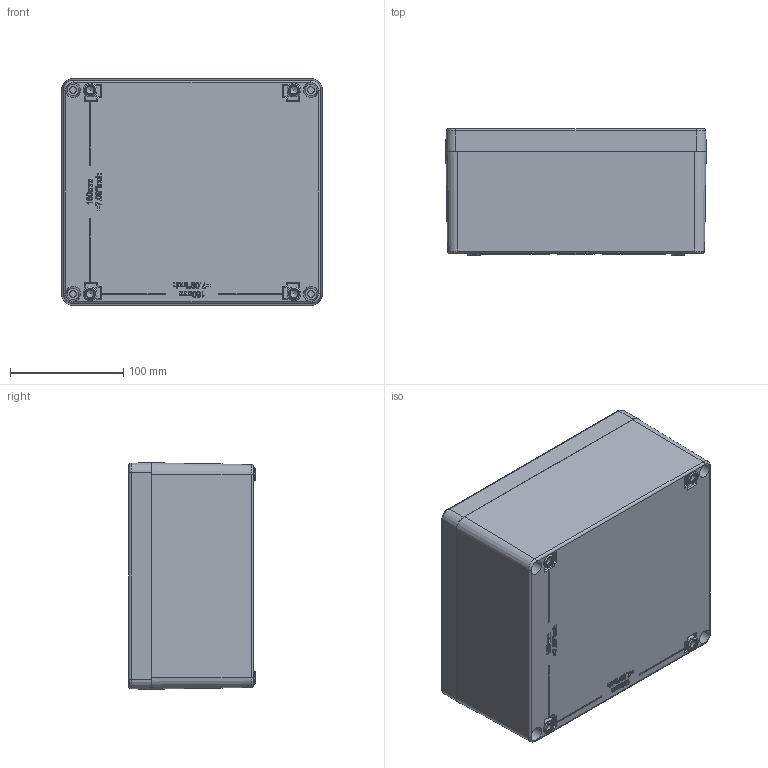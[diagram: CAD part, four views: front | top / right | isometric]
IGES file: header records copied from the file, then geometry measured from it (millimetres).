
Global section: file name: 1590Z231.iam; native system: Autodesk Inventor 2015; preprocessor: unknown; author: MBeerman; date: 20150420.084551; units: millimetre
Bounding box: 230 x 111.5 x 200 mm (x, y, z)
Volume: 1012891.1 mm3; surface area: 482519.9 mm2
Topology: 8 solids, 8 shells, 1229 faces, 3214 edges, 2089 vertices
Faces by surface type: plane 634, revolution 222, bspline 213, cylinder 84, cone 68, sphere 8
Full cylindrical faces by diameter (mm): 5.28 x4, 5.88 x4, 5.971 x4
